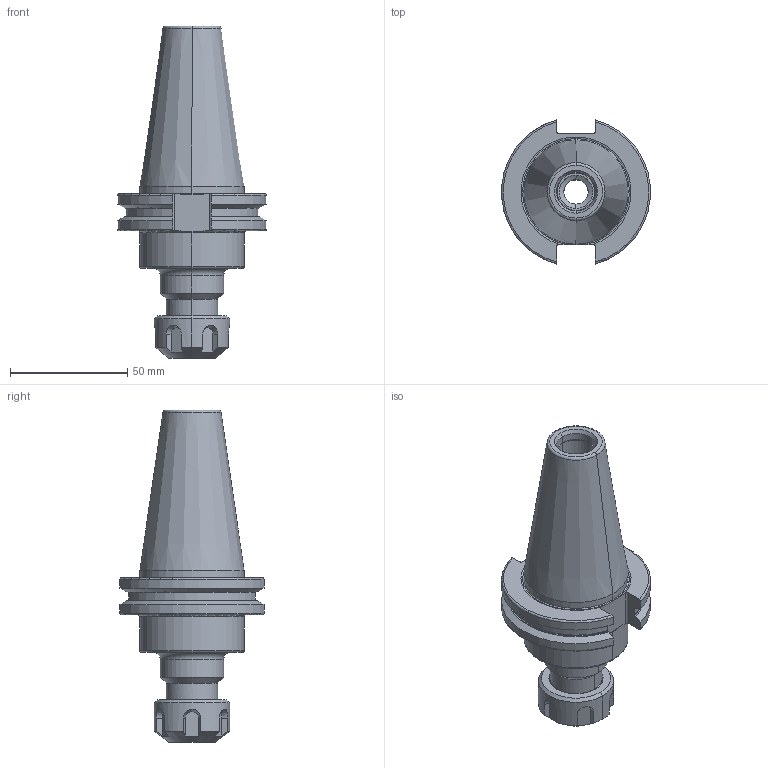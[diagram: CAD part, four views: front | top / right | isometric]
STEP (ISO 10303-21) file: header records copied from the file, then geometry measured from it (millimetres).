
FILE_DESCRIPTION (( 'STEP AP214' ), '1' );
FILE_NAME ('RC4ER16288.STEP', '2019-02-04T21:38:12', ( '' ), ( '' ), 'SwSTEP 2.0', 'SolidWorks 2019', '' );
FILE_SCHEMA (( 'AUTOMOTIVE_DESIGN' ));
Length unit declared in the file: inch
Products named in the file (1): RC4ER16288
Bounding box: 63.26 x 61.35 x 141.4 mm (x, y, z)
Volume: 139406.6 mm3; surface area: 28983.7 mm2
Topology: 1 solids, 1 shells, 344 faces, 896 edges, 582 vertices
Faces by surface type: plane 202, cylinder 54, cone 37, bspline 31, torus 20
Entity records: 17069 total; most frequent: CARTESIAN_POINT 4292, ORIENTED_EDGE 1788, DIRECTION 1579, EDGE_CURVE 894, LINE 589, VECTOR 589, VERTEX_POINT 582, AXIS2_PLACEMENT_3D 495
